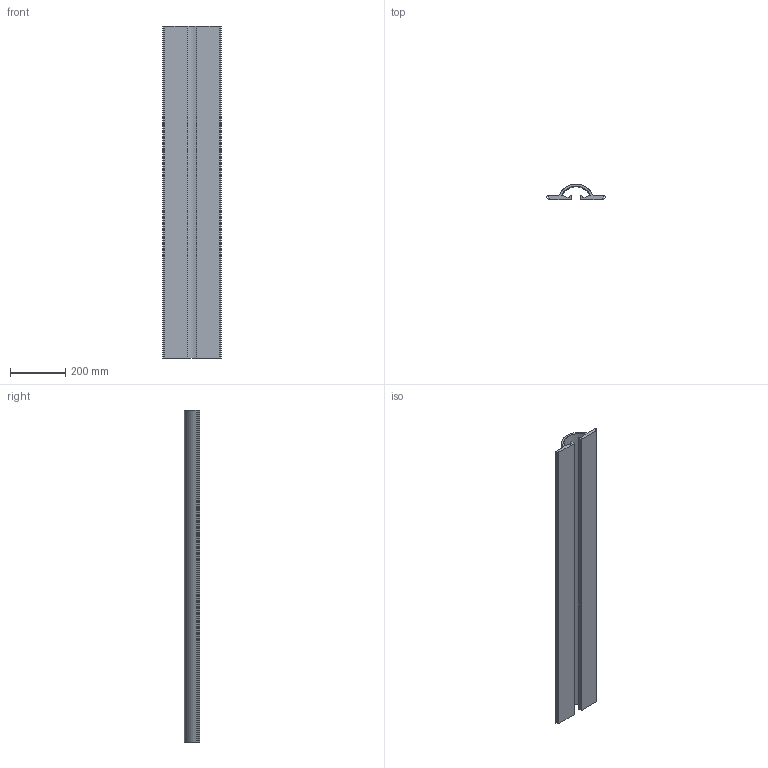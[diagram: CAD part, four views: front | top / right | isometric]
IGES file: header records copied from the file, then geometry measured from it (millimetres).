
Start section: SolidWorks IGES file using analytic representation for surfaces
Global section: file name: \\USINE\Dimitri\CATALOGUE SEDAP\Gamme Sedap\7006 Dooble 35\7006.IGS; native system: SolidWorks 2016; preprocessor: SolidWorks 2016; author: Dimitri; date: 171012.145205; units: millimetre
Bounding box: 210 x 55 x 1200 mm (x, y, z)
Surface area: 843375.9 mm2 (no closed solid volume)
Topology: 0 solids, 0 shells, 28 faces, 280 edges, 280 vertices
Faces by surface type: bspline 26, revolution 2
